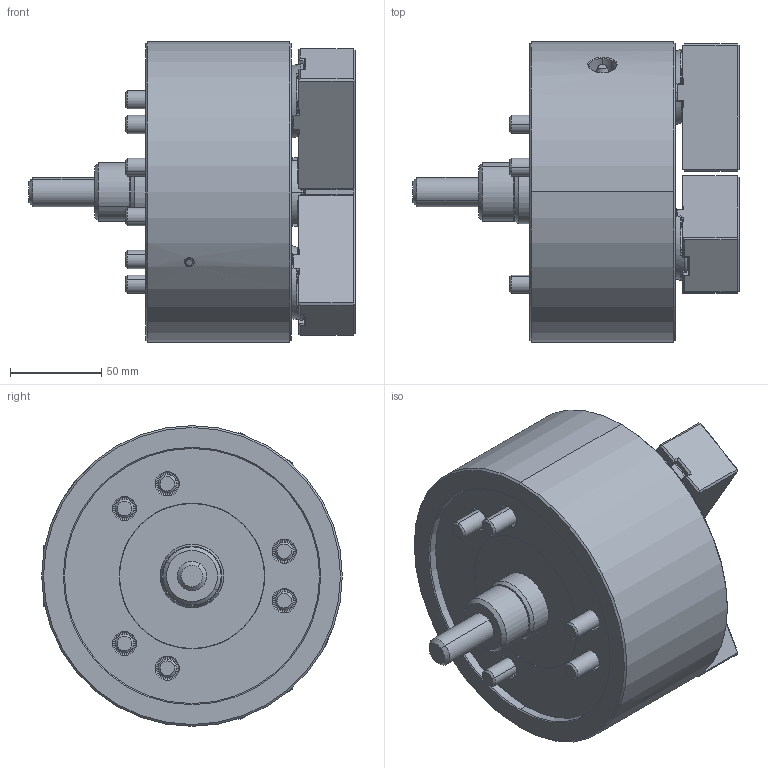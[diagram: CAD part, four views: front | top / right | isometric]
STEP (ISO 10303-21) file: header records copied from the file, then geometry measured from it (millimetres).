
FILE_DESCRIPTION (( 'STEP AP214' ), '1' );
FILE_NAME ('LU-06_OC.STEP', '2019-11-07T23:58:37', ( '' ), ( '' ), 'SwSTEP 2.0', 'SolidWorks 2017', '' );
FILE_SCHEMA (( 'AUTOMOTIVE_DESIGN' ));
Length unit declared in the file: millimetre
Products named in the file (4): 結合; 0030114030; 61P811970; LU-06_OC
Assembly tree (7 placements, depth 2):
  LU-06_OC
    61P811970  x3
    0030114030  x3
    結合
Bounding box: 179 x 165 x 165 mm (x, y, z)
Volume: 1846998.4 mm3; surface area: 193960.8 mm2
Topology: 7 solids, 8 shells, 1291 faces, 3192 edges, 1976 vertices
Faces by surface type: plane 733, cone 209, cylinder 185, bspline 138, torus 26
Entity records: 39102 total; most frequent: CARTESIAN_POINT 14472, ORIENTED_EDGE 5352, DIRECTION 4563, EDGE_CURVE 2676, VERTEX_POINT 1696, VECTOR 1547, LINE 1547, AXIS2_PLACEMENT_3D 1508
